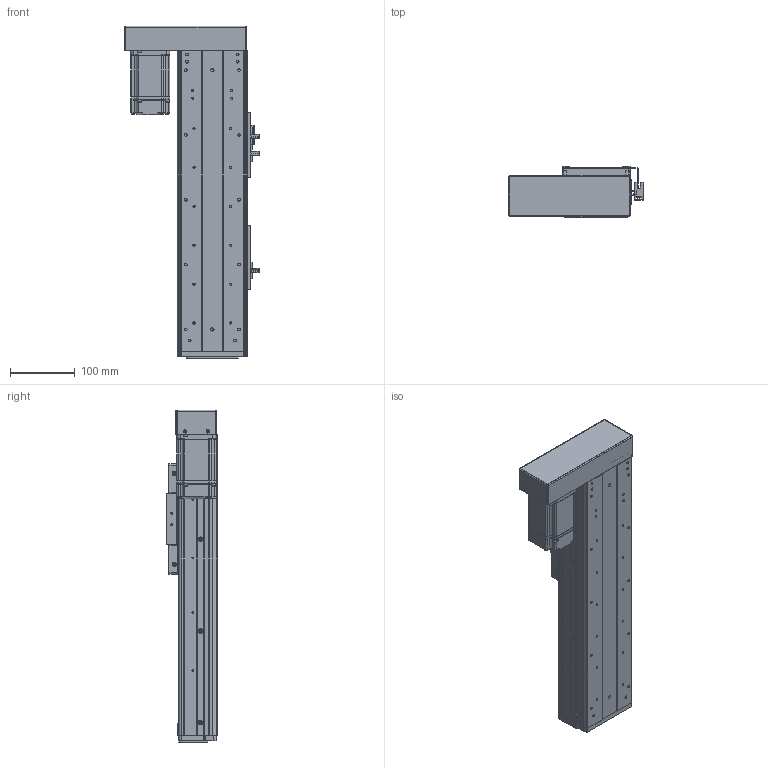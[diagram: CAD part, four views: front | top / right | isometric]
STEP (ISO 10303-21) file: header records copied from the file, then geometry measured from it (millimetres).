
FILE_DESCRIPTION (( 'STEP AP203' ), '1' );
FILE_NAME ('RY100FS-L1620-300-LK(15双轨).SLDASM_200.step', '2021-03-02T07:40:02', ( '盈信电脑' ), ( '东莞市道滘镇水果街19号' ), 'SwSTEP 2.0', 'SolidWorks 2012', '' );
FILE_SCHEMA (( 'CONFIG_CONTROL_DESIGN' ));
Products named in the file (21): RY100FS-300-LK15絳寢倰第奻裔啣_200; RY100FS-300-LK15絳寢倰第菁釱_200; RY100FS-L1620-300-LK(15邧寢).SLDASM_200; RY100FS-15邧寢蛌殏萇儂欶; 蚥薯蝶紫輸; 滅袉蝶14-35; RY100FS-15邧寢蛌殏萇儂啣; 1; 覜茼ん672; RY100FS-双轨螺母座(16丝杆）; RY100F-詩湍揤踡輸; RY100FS-15邧寢蛌殏萇儂釱; RY100F-綴裔啣; RY80俋离覜茼え; 672嫖萇羲壽假蚾釱; RY100F-詩湍揤踡謫; RY100FS-双轨铝滑块(上板）; 棠沺沭; RY100F-詩湍幗謫粣; RY100F-滅鳥裔啣; RY100FS-300-LK15邧寢祥凄詩湍_200
Assembly tree (29 placements, depth 2):
  RY100FS-L1620-300-LK(15邧寢).SLDASM_200
    RY100FS-300-LK15絳寢倰第菁釱_200
    RY100FS-300-LK15絳寢倰第奻裔啣_200  x2
    RY100FS-300-LK15邧寢祥凄詩湍_200
    RY100FS-双轨铝滑块(上板）
    RY100F-滅鳥裔啣
    棠沺沭  x2
    RY100F-詩湍幗謫粣
    RY100F-詩湍揤踡謫  x2
    RY100F-綴裔啣
    672嫖萇羲壽假蚾釱  x2
    RY80俋离覜茼え  x2
    覜茼ん672  x3
    RY100F-詩湍揤踡輸  x2
    RY100FS-双轨螺母座(16丝杆）
    RY100FS-15邧寢蛌殏萇儂釱
    滅袉蝶14-35
    1
    RY100FS-15邧寢蛌殏萇儂啣
    RY100FS-15邧寢蛌殏萇儂欶
    蚥薯蝶紫輸  x2
Bounding box: 207.3 x 78.5 x 512 mm (x, y, z)
Volume: 1669188.2 mm3; surface area: 677133.7 mm2
Topology: 29 solids, 29 shells, 2154 faces, 5791 edges, 3732 vertices
Faces by surface type: plane 1015, cylinder 938, cone 168, bspline 33
Entity records: 60344 total; most frequent: CARTESIAN_POINT 12143, DIRECTION 9662, ORIENTED_EDGE 9390, EDGE_CURVE 4695, AXIS2_PLACEMENT_3D 3410, VERTEX_POINT 3080, VECTOR 2842, LINE 2842
